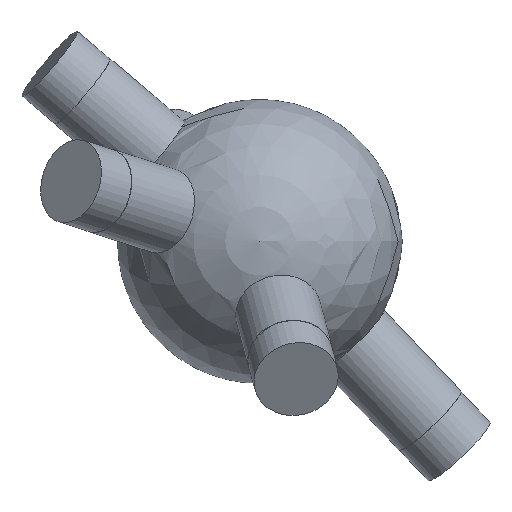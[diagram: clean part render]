
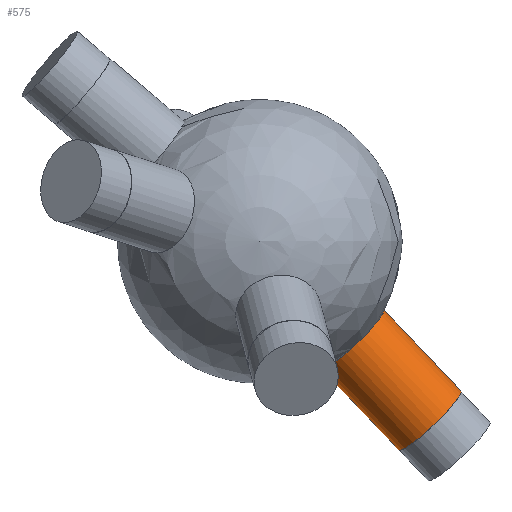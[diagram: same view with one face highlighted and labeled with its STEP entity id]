
A CAD part, top view. The second image highlights one B-rep face of the part: STEP entity #575.
In plain terms, the highlighted cylindrical face has radius 6 mm (diameter 12 mm), a full revolution.
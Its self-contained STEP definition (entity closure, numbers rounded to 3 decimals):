
#35 = SPHERICAL_SURFACE('',#36,20.);
#36 = AXIS2_PLACEMENT_3D('',#37,#38,#39);
#37 = CARTESIAN_POINT('',(0.,0.,0.));
#38 = DIRECTION('',(0.,0.,1.));
#39 = DIRECTION('',(1.,0.,-0.));
#144 = EDGE_CURVE('',#145,#145,#147,.T.);
#145 = VERTEX_POINT('',#146);
#146 = CARTESIAN_POINT('',(8.654,-17.806,-2.837
    ));
#147 = SURFACE_CURVE('',#148,(#153,#215),.PCURVE_S1.);
#148 = CIRCLE('',#149,6.);
#149 = AXIS2_PLACEMENT_3D('',#150,#151,#152);
#150 = CARTESIAN_POINT('',(13.002,-13.671,
    -2.837));
#151 = DIRECTION('',(0.681,-0.717,-0.149));
#152 = DIRECTION('',(0.725,0.689,0.)
  );
#153 = PCURVE('',#35,#154);
#154 = DEFINITIONAL_REPRESENTATION('',(#155),#214);
#155 = B_SPLINE_CURVE_WITH_KNOTS('',8,(#156,#157,#158,#159,#160,#161,
    #162,#163,#164,#165,#166,#167,#168,#169,#170,#171,#172,#173,#174,
    #175,#176,#177,#178,#179,#180,#181,#182,#183,#184,#185,#186,#187,
    #188,#189,#190,#191,#192,#193,#194,#195,#196,#197,#198,#199,#200,
    #201,#202,#203,#204,#205,#206,#207,#208,#209,#210,#211,#212,#213),
  .UNSPECIFIED.,.F.,.F.,(9,7,7,7,7,7,7,7,9),(3.142,
    3.927,4.614,5.216,6.268,
    7.057,7.649,8.537,9.425),
  .UNSPECIFIED.);
#156 = CARTESIAN_POINT('',(5.165,-0.142));
#157 = CARTESIAN_POINT('',(5.163,-0.172));
#158 = CARTESIAN_POINT('',(5.165,-0.201));
#159 = CARTESIAN_POINT('',(5.17,-0.231));
#160 = CARTESIAN_POINT('',(5.179,-0.259));
#161 = CARTESIAN_POINT('',(5.19,-0.287));
#162 = CARTESIAN_POINT('',(5.205,-0.313));
#163 = CARTESIAN_POINT('',(5.223,-0.337));
#164 = CARTESIAN_POINT('',(5.262,-0.379));
#165 = CARTESIAN_POINT('',(5.283,-0.396));
#166 = CARTESIAN_POINT('',(5.306,-0.412));
#167 = CARTESIAN_POINT('',(5.33,-0.425));
#168 = CARTESIAN_POINT('',(5.356,-0.436));
#169 = CARTESIAN_POINT('',(5.383,-0.444));
#170 = CARTESIAN_POINT('',(5.412,-0.45));
#171 = CARTESIAN_POINT('',(5.465,-0.455));
#172 = CARTESIAN_POINT('',(5.49,-0.455));
#173 = CARTESIAN_POINT('',(5.515,-0.453));
#174 = CARTESIAN_POINT('',(5.54,-0.449));
#175 = CARTESIAN_POINT('',(5.565,-0.443));
#176 = CARTESIAN_POINT('',(5.588,-0.435));
#177 = CARTESIAN_POINT('',(5.61,-0.425));
#178 = CARTESIAN_POINT('',(5.668,-0.393));
#179 = CARTESIAN_POINT('',(5.701,-0.367));
#180 = CARTESIAN_POINT('',(5.729,-0.336));
#181 = CARTESIAN_POINT('',(5.751,-0.302));
#182 = CARTESIAN_POINT('',(5.767,-0.265));
#183 = CARTESIAN_POINT('',(5.778,-0.226));
#184 = CARTESIAN_POINT('',(5.782,-0.186));
#185 = CARTESIAN_POINT('',(5.78,-0.117));
#186 = CARTESIAN_POINT('',(5.776,-0.088));
#187 = CARTESIAN_POINT('',(5.768,-0.059));
#188 = CARTESIAN_POINT('',(5.758,-0.031));
#189 = CARTESIAN_POINT('',(5.745,-0.004));
#190 = CARTESIAN_POINT('',(5.729,0.021));
#191 = CARTESIAN_POINT('',(5.71,0.045));
#192 = CARTESIAN_POINT('',(5.674,0.081));
#193 = CARTESIAN_POINT('',(5.657,0.096));
#194 = CARTESIAN_POINT('',(5.639,0.109));
#195 = CARTESIAN_POINT('',(5.619,0.12));
#196 = CARTESIAN_POINT('',(5.599,0.13));
#197 = CARTESIAN_POINT('',(5.578,0.138));
#198 = CARTESIAN_POINT('',(5.556,0.145));
#199 = CARTESIAN_POINT('',(5.502,0.156));
#200 = CARTESIAN_POINT('',(5.468,0.159));
#201 = CARTESIAN_POINT('',(5.434,0.157));
#202 = CARTESIAN_POINT('',(5.4,0.151));
#203 = CARTESIAN_POINT('',(5.367,0.141));
#204 = CARTESIAN_POINT('',(5.336,0.127));
#205 = CARTESIAN_POINT('',(5.308,0.109));
#206 = CARTESIAN_POINT('',(5.255,0.068));
#207 = CARTESIAN_POINT('',(5.232,0.043));
#208 = CARTESIAN_POINT('',(5.212,0.017));
#209 = CARTESIAN_POINT('',(5.195,-0.013));
#210 = CARTESIAN_POINT('',(5.181,-0.044));
#211 = CARTESIAN_POINT('',(5.172,-0.076));
#212 = CARTESIAN_POINT('',(5.166,-0.109));
#213 = CARTESIAN_POINT('',(5.165,-0.142));
#214 = ( GEOMETRIC_REPRESENTATION_CONTEXT(2) 
PARAMETRIC_REPRESENTATION_CONTEXT() REPRESENTATION_CONTEXT('2D SPACE',''
  ) );
#215 = PCURVE('',#216,#221);
#216 = CYLINDRICAL_SURFACE('',#217,6.);
#217 = AXIS2_PLACEMENT_3D('',#218,#219,#220);
#218 = CARTESIAN_POINT('',(0.,0.,0.));
#219 = DIRECTION('',(0.681,-0.717,-0.149));
#220 = DIRECTION('',(-0.725,-0.689,0.)
  );
#221 = DEFINITIONAL_REPRESENTATION('',(#222),#226);
#222 = LINE('',#223,#224);
#223 = CARTESIAN_POINT('',(-3.142,19.079));
#224 = VECTOR('',#225,1.);
#225 = DIRECTION('',(1.,0.));
#226 = ( GEOMETRIC_REPRESENTATION_CONTEXT(2) 
PARAMETRIC_REPRESENTATION_CONTEXT() REPRESENTATION_CONTEXT('2D SPACE',''
  ) );
#575 = ADVANCED_FACE('',(#576),#216,.T.);
#576 = FACE_BOUND('',#577,.T.);
#577 = EDGE_LOOP('',(#578,#601,#628,#629));
#578 = ORIENTED_EDGE('',*,*,#579,.T.);
#579 = EDGE_CURVE('',#145,#580,#582,.T.);
#580 = VERTEX_POINT('',#581);
#581 = CARTESIAN_POINT('',(19.45,-29.157,
    -5.193));
#582 = SEAM_CURVE('',#583,(#587,#594),.PCURVE_S1.);
#583 = LINE('',#584,#585);
#584 = CARTESIAN_POINT('',(-4.348,-4.135,
    0.));
#585 = VECTOR('',#586,1.);
#586 = DIRECTION('',(0.681,-0.717,-0.149));
#587 = PCURVE('',#216,#588);
#588 = DEFINITIONAL_REPRESENTATION('',(#589),#593);
#589 = LINE('',#590,#591);
#590 = CARTESIAN_POINT('',(6.283,-0.));
#591 = VECTOR('',#592,1.);
#592 = DIRECTION('',(0.,1.));
#593 = ( GEOMETRIC_REPRESENTATION_CONTEXT(2) 
PARAMETRIC_REPRESENTATION_CONTEXT() REPRESENTATION_CONTEXT('2D SPACE',''
  ) );
#594 = PCURVE('',#216,#595);
#595 = DEFINITIONAL_REPRESENTATION('',(#596),#600);
#596 = LINE('',#597,#598);
#597 = CARTESIAN_POINT('',(0.,-0.));
#598 = VECTOR('',#599,1.);
#599 = DIRECTION('',(0.,1.));
#600 = ( GEOMETRIC_REPRESENTATION_CONTEXT(2) 
PARAMETRIC_REPRESENTATION_CONTEXT() REPRESENTATION_CONTEXT('2D SPACE',''
  ) );
#601 = ORIENTED_EDGE('',*,*,#602,.F.);
#602 = EDGE_CURVE('',#580,#580,#603,.T.);
#603 = SURFACE_CURVE('',#604,(#609,#616),.PCURVE_S1.);
#604 = CIRCLE('',#605,6.);
#605 = AXIS2_PLACEMENT_3D('',#606,#607,#608);
#606 = CARTESIAN_POINT('',(23.797,-25.022,
    -5.193));
#607 = DIRECTION('',(0.681,-0.717,-0.149));
#608 = DIRECTION('',(-0.725,-0.689,0.)
  );
#609 = PCURVE('',#216,#610);
#610 = DEFINITIONAL_REPRESENTATION('',(#611),#615);
#611 = LINE('',#612,#613);
#612 = CARTESIAN_POINT('',(0.,34.92));
#613 = VECTOR('',#614,1.);
#614 = DIRECTION('',(1.,0.));
#615 = ( GEOMETRIC_REPRESENTATION_CONTEXT(2) 
PARAMETRIC_REPRESENTATION_CONTEXT() REPRESENTATION_CONTEXT('2D SPACE',''
  ) );
#616 = PCURVE('',#617,#622);
#617 = PLANE('',#618);
#618 = AXIS2_PLACEMENT_3D('',#619,#620,#621);
#619 = CARTESIAN_POINT('',(23.797,-25.022,
    -5.193));
#620 = DIRECTION('',(0.681,-0.717,-0.149));
#621 = DIRECTION('',(-0.725,-0.689,0.)
  );
#622 = DEFINITIONAL_REPRESENTATION('',(#623),#627);
#623 = CIRCLE('',#624,6.);
#624 = AXIS2_PLACEMENT_2D('',#625,#626);
#625 = CARTESIAN_POINT('',(0.,0.));
#626 = DIRECTION('',(1.,0.));
#627 = ( GEOMETRIC_REPRESENTATION_CONTEXT(2) 
PARAMETRIC_REPRESENTATION_CONTEXT() REPRESENTATION_CONTEXT('2D SPACE',''
  ) );
#628 = ORIENTED_EDGE('',*,*,#579,.F.);
#629 = ORIENTED_EDGE('',*,*,#144,.T.);
